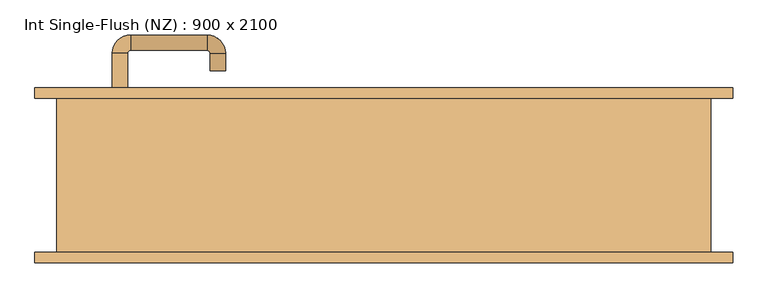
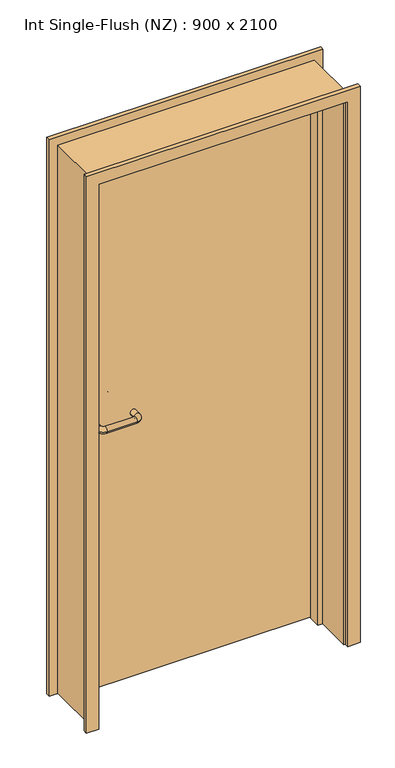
"""IFC4 building model written with IfcOpenShell, lengths in millimetres: door geometry, Int Single-Flush (NZ) : 900 x 2100."""

import ifcopenshell
import ifcopenshell.guid

model = None  # the IFC model being written
_history = None  # IfcOwnerHistory: only IFC2X3 demands one
_inside = {}  # id of a spatial element -> (the spatial element, [elements in it])
_under = {}  # id of a project, library or spatial element -> (it, [spatial elements below it])
_declared = {}  # id of a project -> (the project, [libraries it declares])
_typed = {}  # id of a type object -> (the type object, [elements of that type])
_made_of = {}  # id of a material, layer set ... -> (it, [elements and type objects made of it])


def new_model(schema):
    """Start an empty IFC model of exactly this schema.

    Asked for "IFC4X3", IfcOpenShell would pick the latest addendum, in which some entities
    have other attributes; the version numbers below select the first issue.
    IFC2X3 requires an IfcOwnerHistory on every rooted entity: one is made here for all.
    """
    global model, _history
    if schema == "IFC4X3":
        model = ifcopenshell.file(schema_version=(4, 3, 0, 0))
    else:
        model = ifcopenshell.file(schema=schema)
    _inside.clear()
    _under.clear()
    _declared.clear()
    _typed.clear()
    _made_of.clear()
    _history = None
    if model.schema == "IFC2X3":
        org = make("IfcOrganization", Name="unknown")
        user = make(
            "IfcPersonAndOrganization",
            ThePerson=make("IfcPerson", FamilyName="unknown"),
            TheOrganization=org,
        )
        app = make(
            "IfcApplication",
            ApplicationDeveloper=org,
            Version="unknown",
            ApplicationFullName="unknown",
            ApplicationIdentifier="unknown",
        )
        _history = make(
            "IfcOwnerHistory",
            OwningUser=user,
            OwningApplication=app,
            ChangeAction="ADDED",
            CreationDate=0,
        )
    return model


def make(cls, **values):
    """One entity of the class cls with the attributes given. An attribute that is None is left unset."""
    return model.create_entity(
        cls, **{name: value for name, value in values.items() if value is not None}
    )


def rooted(cls, **values):
    """An entity with a GlobalId (a new one), such as an element, a storey or a relation."""
    return make(cls, GlobalId=ifcopenshell.guid.new(), OwnerHistory=_history, **values)


def si_unit(unit_type, name, prefix=None):
    """IfcSIUnit, for example si_unit("LENGTHUNIT", "METRE", prefix="MILLI")."""
    return make("IfcSIUnit", UnitType=unit_type, Prefix=prefix, Name=name)


def assignment(units):
    """IfcUnitAssignment: the units of a project."""
    return None if units is None else make("IfcUnitAssignment", Units=units)


def point(xyz):
    """IfcCartesianPoint."""
    return None if xyz is None else make("IfcCartesianPoint", Coordinates=xyz)


def direction(xyz):
    """IfcDirection."""
    return None if xyz is None else make("IfcDirection", DirectionRatios=xyz)


def frame(location, z_axis=None, x_axis=None):
    """IfcAxis2Placement3D, a coordinate frame: its origin and axes. An axis left out is left unset."""
    return make(
        "IfcAxis2Placement3D",
        Location=point(location),
        Axis=direction(z_axis),
        RefDirection=direction(x_axis),
    )


def frame_2d(location, x_axis=None):
    """IfcAxis2Placement2D, a coordinate frame in the plane: its origin and x axis."""
    return make(
        "IfcAxis2Placement2D", Location=point(location), RefDirection=direction(x_axis)
    )


def origin():
    """The frame at (0, 0, 0) with its axes left unset."""
    return frame((0.0, 0.0, 0.0))


def place(relative_to, where):
    """IfcLocalPlacement: puts the frame where relative to a parent placement (None: the world)."""
    return make(
        "IfcLocalPlacement", PlacementRelTo=relative_to, RelativePlacement=where
    )


def context(
    kind, dimensions, precision=None, world=None, true_north=None, identifier=None
):
    """IfcGeometricRepresentationContext, for example the 3D "Model" context."""
    return make(
        "IfcGeometricRepresentationContext",
        ContextIdentifier=identifier,
        ContextType=kind,
        CoordinateSpaceDimension=dimensions,
        Precision=precision,
        WorldCoordinateSystem=world,
        TrueNorth=true_north,
    )


def project(units=None, contexts=None):
    """IfcProject with its units and contexts."""
    return rooted(
        "IfcProject",
        Name="project",
        RepresentationContexts=contexts,
        UnitsInContext=assignment(units),
    )


def spatial(cls, under=None, at=None, **own):
    """A site, building, storey or space (cls), placed at a placement, below another one or the project."""
    s = rooted(cls, ObjectPlacement=at, **own)
    if under is not None:
        _under.setdefault(under.id(), (under, []))[1].append(s)
    return s


def polyline(points):
    """IfcPolyline through the points."""
    return make("IfcPolyline", Points=[point(p) for p in points])


def circle_curve(where, radius):
    """IfcCircle in the frame where."""
    return make("IfcCircle", Position=where, Radius=radius)


def ellipse_curve(where, semi_axis1, semi_axis2):
    """IfcEllipse in the frame where."""
    return make(
        "IfcEllipse", Position=where, SemiAxis1=semi_axis1, SemiAxis2=semi_axis2
    )


def trimmed(basis, trim1, trim2, sense, master):
    """IfcTrimmedCurve: the piece of a basis curve between two trims."""
    return make(
        "IfcTrimmedCurve",
        BasisCurve=basis,
        Trim1=trim1,
        Trim2=trim2,
        SenseAgreement=sense,
        MasterRepresentation=master,
    )


def segment(curve, same_sense, transition):
    """IfcCompositeCurveSegment."""
    return make(
        "IfcCompositeCurveSegment",
        Transition=transition,
        SameSense=same_sense,
        ParentCurve=curve,
    )


def composite_curve(segments, self_intersect=None):
    """IfcCompositeCurve: segments joined end to end."""
    return make("IfcCompositeCurve", Segments=segments, SelfIntersect=self_intersect)


def outline(outer, holes=None, kind="AREA"):
    """IfcArbitraryClosedProfileDef: a profile drawn as a closed curve; with holes, ...WithVoids."""
    if holes is None:
        return make("IfcArbitraryClosedProfileDef", ProfileType=kind, OuterCurve=outer)
    return make(
        "IfcArbitraryProfileDefWithVoids",
        ProfileType=kind,
        OuterCurve=outer,
        InnerCurves=holes,
    )


def extrude(swept, where, along, depth):
    """IfcExtrudedAreaSolid: the profile swept, set in the frame where, extruded along a direction by depth."""
    return make(
        "IfcExtrudedAreaSolid",
        SweptArea=swept,
        Position=where,
        ExtrudedDirection=direction(along),
        Depth=depth,
    )


def faces_of(points, faces, orient=None, outer=None):
    """IfcFace entities. A face is a list of loops; a loop is a list of indices into points, from 0.

    orient and outer hold one flag for each loop. By default every Orientation is true, the
    first loop of a face is its IfcFaceOuterBound and the others are IfcFaceBound.
    """
    made = []
    for i, loops in enumerate(faces):
        bounds = []
        for j, loop in enumerate(loops):
            is_outer = j == 0 if outer is None else outer[i][j]
            bounds.append(
                make(
                    "IfcFaceOuterBound" if is_outer else "IfcFaceBound",
                    Bound=make("IfcPolyLoop", Polygon=[points[k] for k in loop]),
                    Orientation=True if orient is None else orient[i][j],
                )
            )
        made.append(make("IfcFace", Bounds=bounds))
    return made


def faceted_brep(points, faces, orient=None, outer=None, voids=None):
    """IfcFacetedBrep: a solid bounded by flat faces; with voids (closed shells), ...WithVoids."""
    shared = [point(p) for p in points]
    hull = make("IfcClosedShell", CfsFaces=faces_of(shared, faces, orient, outer))
    if voids is None:
        return make("IfcFacetedBrep", Outer=hull)
    return make(
        "IfcFacetedBrepWithVoids",
        Outer=hull,
        Voids=[
            make(cls, CfsFaces=faces_of(shared, fs, o, b)) for cls, fs, o, b in voids
        ],
    )


def shape(context_of_items, identifier, shape_type, items):
    """IfcShapeRepresentation: the items that make up one representation, for example the "Body"."""
    return make(
        "IfcShapeRepresentation",
        ContextOfItems=context_of_items,
        RepresentationIdentifier=identifier,
        RepresentationType=shape_type,
        Items=items,
    )


def source(mapping_origin, context_of_items, identifier, shape_type, items):
    """IfcRepresentationMap: a shape defined once, which mapped items show again and again."""
    return make(
        "IfcRepresentationMap",
        MappingOrigin=mapping_origin,
        MappedRepresentation=shape(context_of_items, identifier, shape_type, items),
    )


def transform(
    local_origin,
    x_axis=None,
    y_axis=None,
    z_axis=None,
    scale=None,
    scale2=None,
    scale3=None,
    uniform=True,
):
    """IfcCartesianTransformationOperator3D, or its non-uniform kind. x_axis, y_axis, z_axis: its Axis1, 2, 3."""
    if uniform:
        return make(
            "IfcCartesianTransformationOperator3D",
            Axis1=direction(x_axis),
            Axis2=direction(y_axis),
            LocalOrigin=point(local_origin),
            Scale=scale,
            Axis3=direction(z_axis),
        )
    return make(
        "IfcCartesianTransformationOperator3DnonUniform",
        Axis1=direction(x_axis),
        Axis2=direction(y_axis),
        LocalOrigin=point(local_origin),
        Scale=scale,
        Axis3=direction(z_axis),
        Scale2=scale2,
        Scale3=scale3,
    )


def mapped(mapping_source, mapping_target):
    """IfcMappedItem: shows the shape of a source again, moved by a transform."""
    return make(
        "IfcMappedItem", MappingSource=mapping_source, MappingTarget=mapping_target
    )


def made_of(thing, what):
    """Note that an element or type object is made of a material, layer set ...; save() writes the relation."""
    if what is not None:
        _made_of.setdefault(what.id(), (what, []))[1].append(thing)
    return thing


def element(
    cls,
    number,
    at=None,
    inside=None,
    cuts=None,
    type_object=None,
    material=None,
    context=None,
    identifier="Body",
    shape_type=None,
    held_by="IfcProductDefinitionShape",
    body=None,
    shapes=None,
    **own,
):
    """One element of the class cls, such as IfcWall. Its Tag is "e" and its number.

    at: its placement. inside: the storey or other place that contains it. cuts: it is an
    opening in that element (IfcRelVoidsElement). A single representation is given by context,
    identifier, shape_type and body (its items); several are given by shapes. held_by: the class
    of the entity that holds the representations. save() writes the other relations.
    """
    e = rooted(cls, Tag="e%d" % number, ObjectPlacement=at, **own)
    if body is not None:
        shapes = [shape(context, identifier, shape_type, body)]
    if shapes is not None:
        e.Representation = make(held_by, Representations=shapes)
    if inside is not None:
        _inside.setdefault(inside.id(), (inside, []))[1].append(e)
    if cuts is not None:
        rooted(
            "IfcRelVoidsElement", RelatingBuildingElement=cuts, RelatedOpeningElement=e
        )
    if type_object is not None:
        _typed.setdefault(type_object.id(), (type_object, []))[1].append(e)
    return made_of(e, material)


def aggregate(whole, parts):
    """IfcRelAggregates: a whole, such as a stair, and the parts it consists of."""
    return rooted("IfcRelAggregates", RelatingObject=whole, RelatedObjects=parts)


def save(model, path):
    """Write the relations noted so far, then the file.

    IfcRelAggregates (storeys below a building ...), IfcRelContainedInSpatialStructure (elements
    in a storey), IfcRelDefinesByType, IfcRelAssociatesMaterial and IfcRelDeclares: one each for
    every whole, place, type object, material and project.
    """
    for whole, parts in _under.values():
        aggregate(whole, parts)
    for where, things in _inside.values():
        rooted(
            "IfcRelContainedInSpatialStructure",
            RelatedElements=things,
            RelatingStructure=where,
        )
    for kind, things in _typed.values():
        rooted("IfcRelDefinesByType", RelatedObjects=things, RelatingType=kind)
    for what, things in _made_of.values():
        rooted("IfcRelAssociatesMaterial", RelatedObjects=things, RelatingMaterial=what)
    for by, libraries in _declared.values():
        rooted("IfcRelDeclares", RelatingContext=by, RelatedDefinitions=libraries)
    model.write(path)


def plane_surface(at):
    """IfcPlane: the flat surface through the origin of the frame at, square to its z axis."""
    return make("IfcPlane", Position=at)


def cylinder_surface(at, radius):
    """IfcCylindricalSurface: all points at the distance radius from the z axis of the frame at."""
    return make("IfcCylindricalSurface", Position=at, Radius=radius)


def revolved_surface(curve, axis_point, axis_direction):
    """IfcSurfaceOfRevolution: the curve turned about the line through axis_point along axis_direction."""
    return make(
        "IfcSurfaceOfRevolution",
        SweptCurve=make("IfcArbitraryOpenProfileDef", ProfileType="CURVE", Curve=curve),
        AxisPosition=make("IfcAxis1Placement", Location=point(axis_point), Axis=direction(axis_direction)),
    )


def advanced_brep(points, edges, surfaces, faces):
    """IfcAdvancedBrep: a solid bounded by faces that lie on surfaces and meet in shared edges.

    An edge is (start, end): straight between two places in points (the first is 0);
    or (start, end, curve); or (start, end, curve, False) where it runs against its curve.
    A face is (place in surfaces, loops), or (place, loops, False) where it looks against
    its surface's normal. A loop lists edges by number (the first is 1), with a minus sign
    where the edge is run from its end to its start. The first loop is the outer one.
    """
    corners = [point(p) for p in points]
    vertices = [make("IfcVertexPoint", VertexGeometry=c) for c in corners]
    made = []
    for start, end, *more in edges:
        made.append(
            make(
                "IfcEdgeCurve",
                EdgeStart=vertices[start],
                EdgeEnd=vertices[end],
                EdgeGeometry=more[0] if more else make("IfcPolyline", Points=[corners[start], corners[end]]),
                SameSense=more[1] if len(more) > 1 else True,
            )
        )
    hull = []
    for where, loops, *sense in faces:
        bounds = []
        for j, loop in enumerate(loops):
            ring = [make("IfcOrientedEdge", EdgeElement=made[abs(k) - 1], Orientation=k > 0) for k in loop]
            bounds.append(
                make(
                    "IfcFaceOuterBound" if j == 0 else "IfcFaceBound",
                    Bound=make("IfcEdgeLoop", EdgeList=ring),
                    Orientation=True,
                )
            )
        hull.append(make("IfcAdvancedFace", Bounds=bounds, FaceSurface=surfaces[where], SameSense=sense[0] if sense else True))
    return make("IfcAdvancedBrep", Outer=make("IfcClosedShell", CfsFaces=hull))


def int_single_flush_nz_900_x_2100_021ef152(model_context):
    return source(origin(), model_context, "Body", "SolidModel", [
        extrude(outline(polyline([(2119.0, -544.0), (0.0, -544.0), (0.0, -525.0), (2100.0, -525.0), (2100.0, 375.0), (0.0, 375.0), (0.0, 394.0), (2119.0, 394.0), (2119.0, -544.0)])), frame((0.0, -110.0, 0.0), z_axis=(0.0, 1.0, 0.0), x_axis=(0.0, 0.0, 1.0)), (0.0, 0.0, 1.0), 220.0),
        faceted_brep([(-525.0, 69.0, 0.0), (-506.6719264, 69.0, 0.0), (-506.6719264, 24.0, 0.0), (-525.0, 24.0, 0.0), (-525.0, 69.0, 2100.0), (-506.6719264, 69.0, 2081.6719264), (-506.6719264, 24.0, 2081.6719264), (-525.0, 24.0, 2100.0), (375.0, 69.0, 0.0), (375.0, 24.0, 0.0), (356.6719264, 24.0, 0.0), (356.6719264, 69.0, 0.0), (375.0, 69.0, 2100.0), (375.0, 24.0, 2100.0), (356.6719264, 24.0, 2081.6719264), (356.6719264, 69.0, 2081.6719264)], [[[0, 1, 2, 3]], [[1, 0, 4, 5]], [[2, 1, 5, 6]], [[3, 2, 6, 7]], [[0, 3, 7, 4]], [[8, 9, 10, 11]], [[12, 13, 9, 8]], [[13, 14, 10, 9]], [[14, 15, 11, 10]], [[15, 12, 8, 11]], [[5, 4, 12, 15]], [[6, 5, 15, 14]], [[7, 6, 14, 13]], [[4, 7, 13, 12]]]),
        extrude(outline(polyline([(2150.0, 425.0), (2150.0, -575.0), (0.0, -575.0), (0.0, -530.0), (2105.0, -530.0), (2105.0, 380.0), (0.0, 380.0), (0.0, 425.0), (2150.0, 425.0)])), frame((0.0, 110.0, 0.0), z_axis=(0.0, 1.0, 0.0), x_axis=(0.0, 0.0, 1.0)), (0.0, 0.0, 1.0), 15.0),
        extrude(outline(polyline([(2150.0, -575.0), (0.0, -575.0), (0.0, -530.0), (2105.0, -530.0), (2105.0, 380.0), (0.0, 380.0), (0.0, 425.0), (2150.0, 425.0), (2150.0, -575.0)])), frame((0.0, -125.0, 0.0), z_axis=(0.0, 1.0, 0.0), x_axis=(0.0, 0.0, 1.0)), (0.0, 0.0, 1.0), 15.0),
        advanced_brep(
        [(-464.0, 62.0160352, 1053.0), (-442.0, 62.0160352, 1053.0), (-464.0, 7.0160352, 1053.0), (-442.0, 7.0160352, 1053.0), (-438.0, 3.0160352, 1053.0), (-438.0, -18.9839648, 1053.0), (-328.0, -18.9839648, 1053.0), (-328.0, 3.0160352, 1053.0), (-324.0, 7.0160352, 1053.0), (-302.0, 7.0160352, 1053.0), (-302.0, 32.0160352, 1053.0), (-324.0, 32.0160352, 1053.0)],
        [
            (0, 1, circle_curve(frame((-453.0, 62.0160352, 1053.0), z_axis=(0.0, 1.0, 0.0), x_axis=(1.0, 0.0, 0.0)), 11.0)),
            (1, 0, circle_curve(frame((-453.0, 62.0160352, 1053.0), z_axis=(0.0, 1.0, 0.0), x_axis=(1.0, 0.0, 0.0)), 11.0)),
            (0, 2),
            (2, 3, circle_curve(frame((-453.0, 7.0160352, 1053.0), z_axis=(0.0, 1.0, 0.0), x_axis=(1.0, 0.0, 0.0)), 11.0)),
            (3, 1),
            (3, 2, circle_curve(frame((-453.0, 7.0160352, 1053.0), z_axis=(0.0, 1.0, 0.0), x_axis=(1.0, 0.0, 0.0)), 11.0)),
            (4, 3, circle_curve(frame((-438.0, 7.0160352, 1053.0), z_axis=(0.0, 0.0, -1.0), x_axis=(-1.0, 0.0, 0.0)), 4.0)),
            (2, 5, circle_curve(frame((-438.0, 7.0160352, 1053.0), z_axis=(0.0, 0.0, 1.0), x_axis=(-1.0, 0.0, 0.0)), 26.0)),
            (5, 4, circle_curve(frame((-438.0, -7.9839648, 1053.0), z_axis=(-1.0, 0.0, 0.0), x_axis=(0.0, 1.0, 0.0)), 11.0)),
            (4, 5, circle_curve(frame((-438.0, -7.9839648, 1053.0), z_axis=(-1.0, 0.0, 0.0), x_axis=(0.0, 1.0, 0.0)), 11.0)),
            (5, 6),
            (6, 7, circle_curve(frame((-328.0, -7.9839648, 1053.0), z_axis=(-1.0, 0.0, 0.0), x_axis=(0.0, 1.0, 0.0)), 11.0)),
            (7, 4),
            (7, 6, circle_curve(frame((-328.0, -7.9839648, 1053.0), z_axis=(-1.0, 0.0, 0.0), x_axis=(0.0, 1.0, 0.0)), 11.0)),
            (8, 7, circle_curve(frame((-328.0, 7.0160352, 1053.0), z_axis=(0.0, 0.0, -1.0), x_axis=(0.0, -1.0, 0.0)), 4.0)),
            (6, 9, circle_curve(frame((-328.0, 7.0160352, 1053.0), z_axis=(0.0, 0.0, 1.0), x_axis=(0.0, -1.0, 0.0)), 26.0)),
            (9, 8, circle_curve(frame((-313.0, 7.0160352, 1053.0), z_axis=(0.0, -1.0, 0.0), x_axis=(-1.0, 0.0, 0.0)), 11.0)),
            (8, 9, circle_curve(frame((-313.0, 7.0160352, 1053.0), z_axis=(0.0, -1.0, 0.0), x_axis=(-1.0, 0.0, 0.0)), 11.0)),
            (10, 11, circle_curve(frame((-313.0, 32.0160352, 1053.0), z_axis=(0.0, 1.0, 0.0), x_axis=(-1.0, 0.0, 0.0)), 11.0)),
            (11, 10, circle_curve(frame((-313.0, 32.0160352, 1053.0), z_axis=(0.0, 1.0, 0.0), x_axis=(-1.0, 0.0, 0.0)), 11.0)),
            (9, 10),
            (11, 8),
        ],
        [
            plane_surface(frame((-464.0, 62.0160352, 1053.0), z_axis=(0.0, 1.0, 0.0), x_axis=(0.0, 0.0, -1.0))),
            cylinder_surface(frame((-453.0, 62.0160352, 1053.0), z_axis=(0.0, 1.0, 0.0), x_axis=(1.0, 0.0, 0.0)), 11.0),
            revolved_surface(trimmed(ellipse_curve(frame((-453.0, 7.0160352, 1053.0), z_axis=(0.0, 1.0, 0.0), x_axis=(1.0, 0.0, 0.0)), 11.0, 11.0), [point((-464.0, 7.0160352, 1053.0))], [point((-442.0, 7.0160352, 1053.0))], True, "CARTESIAN"), (-438.0, 7.0160352, 1053.0), (0.0, 0.0, 1.0)),
            revolved_surface(trimmed(ellipse_curve(frame((-453.0, 7.0160352, 1053.0), z_axis=(0.0, 1.0, 0.0), x_axis=(1.0, 0.0, 0.0)), 11.0, 11.0), [point((-442.0, 7.0160352, 1053.0))], [point((-464.0, 7.0160352, 1053.0))], True, "CARTESIAN"), (-438.0, 7.0160352, 1053.0), (0.0, 0.0, 1.0)),
            cylinder_surface(frame((-438.0, -7.9839648, 1053.0), z_axis=(-1.0, 0.0, 0.0), x_axis=(0.0, 1.0, 0.0)), 11.0),
            revolved_surface(trimmed(ellipse_curve(frame((-328.0, -7.9839648, 1053.0), z_axis=(-1.0, 0.0, 0.0), x_axis=(0.0, 1.0, 0.0)), 11.0, 11.0), [point((-328.0, -18.9839648, 1053.0))], [point((-328.0, 3.0160352, 1053.0))], True, "CARTESIAN"), (-328.0, 7.0160352, 1053.0), (0.0, 0.0, 1.0)),
            revolved_surface(trimmed(ellipse_curve(frame((-328.0, -7.9839648, 1053.0), z_axis=(-1.0, 0.0, 0.0), x_axis=(0.0, 1.0, 0.0)), 11.0, 11.0), [point((-328.0, 3.0160352, 1053.0))], [point((-328.0, -18.9839648, 1053.0))], True, "CARTESIAN"), (-328.0, 7.0160352, 1053.0), (0.0, 0.0, 1.0)),
            plane_surface(frame((-324.0, 32.0160352, 1053.0), z_axis=(0.0, 1.0, 0.0), x_axis=(0.0, 0.0, 1.0))),
            cylinder_surface(frame((-313.0, 7.0160352, 1053.0), z_axis=(0.0, -1.0, 0.0), x_axis=(-1.0, 0.0, 0.0)), 11.0),
        ],
        [
            (0, [[1, 2]]),
            (1, [[-1, 3, 4, 5]]),
            (1, [[-2, -5, 6, -3]]),
            (2, [[7, -4, 8, 9]]),
            (3, [[-8, -6, -7, 10]]),
            (4, [[-9, 11, 12, 13]]),
            (4, [[-10, -13, 14, -11]]),
            (5, [[15, -12, 16, 17]]),
            (6, [[-16, -14, -15, 18]]),
            (7, [[19, 20]]),
            (8, [[-17, 21, -20, 22]]),
            (8, [[-18, -22, -19, -21]]),
        ],
    ),
        extrude(outline(composite_curve([segment(trimmed(circle_curve(frame_2d((1053.0, -453.0)), 25.0), [point((1053.0, -478.0))], [point((1053.0, -428.0))], False, "CARTESIAN"), True, "CONTINUOUS"), segment(trimmed(circle_curve(frame_2d((1053.0, -453.0)), 25.0), [point((1053.0, -428.0))], [point((1053.0, -478.0))], False, "CARTESIAN"), True, "CONTINUOUS")], self_intersect=False)), frame((0.0, 62.0160352, 0.0), z_axis=(0.0, 1.0, 0.0), x_axis=(0.0, 0.0, 1.0)), (0.0, 0.0, 1.0), 9.9839648),
        advanced_brep(
        [(-442.0, 120.0, 1053.0), (-464.0, 120.0, 1053.0), (-442.0, 175.0, 1053.0), (-464.0, 175.0, 1053.0), (-438.0, 201.0, 1053.0), (-438.0, 179.0, 1053.0), (-328.0, 179.0, 1053.0), (-328.0, 201.0, 1053.0), (-302.0, 175.0, 1053.0), (-324.0, 175.0, 1053.0), (-324.0, 150.0, 1053.0), (-302.0, 150.0, 1053.0)],
        [
            (0, 1, circle_curve(frame((-453.0, 120.0, 1053.0), z_axis=(0.0, -1.0, 0.0), x_axis=(-1.0, 0.0, 0.0)), 11.0)),
            (1, 0, circle_curve(frame((-453.0, 120.0, 1053.0), z_axis=(0.0, -1.0, 0.0), x_axis=(-1.0, 0.0, 0.0)), 11.0)),
            (0, 2),
            (2, 3, circle_curve(frame((-453.0, 175.0, 1053.0), z_axis=(0.0, -1.0, 0.0), x_axis=(-1.0, 0.0, 0.0)), 11.0)),
            (3, 1),
            (3, 2, circle_curve(frame((-453.0, 175.0, 1053.0), z_axis=(0.0, -1.0, 0.0), x_axis=(-1.0, 0.0, 0.0)), 11.0)),
            (4, 3, circle_curve(frame((-438.0, 175.0, 1053.0), z_axis=(0.0, 0.0, 1.0), x_axis=(-1.0, 0.0, 0.0)), 26.0)),
            (2, 5, circle_curve(frame((-438.0, 175.0, 1053.0), z_axis=(0.0, 0.0, -1.0), x_axis=(-1.0, 0.0, 0.0)), 4.0)),
            (5, 4, circle_curve(frame((-438.0, 190.0, 1053.0), z_axis=(-1.0, 0.0, 0.0), x_axis=(0.0, 1.0, 0.0)), 11.0)),
            (4, 5, circle_curve(frame((-438.0, 190.0, 1053.0), z_axis=(-1.0, 0.0, 0.0), x_axis=(0.0, 1.0, 0.0)), 11.0)),
            (5, 6),
            (6, 7, circle_curve(frame((-328.0, 190.0, 1053.0), z_axis=(-1.0, 0.0, 0.0), x_axis=(0.0, 1.0, 0.0)), 11.0)),
            (7, 4),
            (7, 6, circle_curve(frame((-328.0, 190.0, 1053.0), z_axis=(-1.0, 0.0, 0.0), x_axis=(0.0, 1.0, 0.0)), 11.0)),
            (8, 7, circle_curve(frame((-328.0, 175.0, 1053.0), z_axis=(0.0, 0.0, 1.0), x_axis=(0.0, 1.0, 0.0)), 26.0)),
            (6, 9, circle_curve(frame((-328.0, 175.0, 1053.0), z_axis=(0.0, 0.0, -1.0), x_axis=(0.0, 1.0, 0.0)), 4.0)),
            (9, 8, circle_curve(frame((-313.0, 175.0, 1053.0), z_axis=(0.0, 1.0, 0.0), x_axis=(1.0, 0.0, 0.0)), 11.0)),
            (8, 9, circle_curve(frame((-313.0, 175.0, 1053.0), z_axis=(0.0, 1.0, 0.0), x_axis=(1.0, 0.0, 0.0)), 11.0)),
            (10, 11, circle_curve(frame((-313.0, 150.0, 1053.0), z_axis=(0.0, -1.0, 0.0), x_axis=(1.0, 0.0, 0.0)), 11.0)),
            (11, 10, circle_curve(frame((-313.0, 150.0, 1053.0), z_axis=(0.0, -1.0, 0.0), x_axis=(1.0, 0.0, 0.0)), 11.0)),
            (9, 10),
            (11, 8),
        ],
        [
            plane_surface(frame((-464.0, 120.0, 1053.0), z_axis=(0.0, -1.0, 0.0), x_axis=(0.0, 0.0, 1.0))),
            cylinder_surface(frame((-453.0, 120.0, 1053.0), z_axis=(0.0, -1.0, 0.0), x_axis=(-1.0, 0.0, 0.0)), 11.0),
            revolved_surface(trimmed(ellipse_curve(frame((-453.0, 175.0, 1053.0), z_axis=(0.0, -1.0, 0.0), x_axis=(-1.0, 0.0, 0.0)), 11.0, 11.0), [point((-442.0, 175.0, 1053.0))], [point((-464.0, 175.0, 1053.0))], True, "CARTESIAN"), (-438.0, 175.0, 1053.0), (0.0, 0.0, -1.0)),
            revolved_surface(trimmed(ellipse_curve(frame((-453.0, 175.0, 1053.0), z_axis=(0.0, -1.0, 0.0), x_axis=(-1.0, 0.0, 0.0)), 11.0, 11.0), [point((-464.0, 175.0, 1053.0))], [point((-442.0, 175.0, 1053.0))], True, "CARTESIAN"), (-438.0, 175.0, 1053.0), (0.0, 0.0, -1.0)),
            cylinder_surface(frame((-438.0, 190.0, 1053.0), z_axis=(-1.0, 0.0, 0.0), x_axis=(0.0, 1.0, 0.0)), 11.0),
            revolved_surface(trimmed(ellipse_curve(frame((-328.0, 190.0, 1053.0), z_axis=(-1.0, 0.0, 0.0), x_axis=(0.0, 1.0, 0.0)), 11.0, 11.0), [point((-328.0, 179.0, 1053.0))], [point((-328.0, 201.0, 1053.0))], True, "CARTESIAN"), (-328.0, 175.0, 1053.0), (0.0, 0.0, -1.0)),
            revolved_surface(trimmed(ellipse_curve(frame((-328.0, 190.0, 1053.0), z_axis=(-1.0, 0.0, 0.0), x_axis=(0.0, 1.0, 0.0)), 11.0, 11.0), [point((-328.0, 201.0, 1053.0))], [point((-328.0, 179.0, 1053.0))], True, "CARTESIAN"), (-328.0, 175.0, 1053.0), (0.0, 0.0, -1.0)),
            plane_surface(frame((-324.0, 150.0, 1053.0), z_axis=(0.0, -1.0, 0.0), x_axis=(0.0, 0.0, -1.0))),
            cylinder_surface(frame((-313.0, 175.0, 1053.0), z_axis=(0.0, 1.0, 0.0), x_axis=(1.0, 0.0, 0.0)), 11.0),
        ],
        [
            (0, [[1, 2]]),
            (1, [[-1, 3, 4, 5]]),
            (1, [[-2, -5, 6, -3]]),
            (2, [[7, -4, 8, 9]]),
            (3, [[-8, -6, -7, 10]]),
            (4, [[-9, 11, 12, 13]]),
            (4, [[-10, -13, 14, -11]]),
            (5, [[15, -12, 16, 17]]),
            (6, [[-16, -14, -15, 18]]),
            (7, [[19, 20]]),
            (8, [[-17, 21, -20, 22]]),
            (8, [[-18, -22, -19, -21]]),
        ],
    ),
        extrude(outline(composite_curve([segment(trimmed(circle_curve(frame_2d((1053.0, -453.0)), 25.0), [point((1053.0, -428.0))], [point((1053.0, -478.0))], False, "CARTESIAN"), True, "CONTINUOUS"), segment(trimmed(circle_curve(frame_2d((1053.0, -453.0)), 25.0), [point((1053.0, -478.0))], [point((1053.0, -428.0))], False, "CARTESIAN"), True, "CONTINUOUS")], self_intersect=False)), frame((0.0, 110.0, 0.0), z_axis=(0.0, 1.0, 0.0), x_axis=(0.0, 0.0, 1.0)), (0.0, 0.0, 1.0), 10.0),
        extrude(outline(polyline([(372.0, 72.0), (-528.0, 72.0), (-528.0, 110.0), (372.0, 110.0), (372.0, 72.0)])), frame((0.0, 0.0, 3.0), z_axis=(0.0, 0.0, 1.0), x_axis=(1.0, 0.0, 0.0)), (0.0, 0.0, 1.0), 2094.0),
    ])


if __name__ == "__main__":
    model = new_model("IFC4")
    model_context = context("Model", 3, world=origin())
    ifc_project = project(units=[si_unit("LENGTHUNIT", "METRE", prefix="MILLI")], contexts=[model_context])
    site = spatial("IfcSite", under=ifc_project)
    building = spatial("IfcBuilding", under=site)
    placement = place(None, origin())
    int_single_flush_nz_900_x_2100_shape = int_single_flush_nz_900_x_2100_021ef152(model_context)
    element("IfcDoor", 1, ObjectType="Int Single-Flush (NZ) : 900 x 2100", at=placement, inside=building, context=model_context, shape_type="MappedRepresentation", body=[
        mapped(int_single_flush_nz_900_x_2100_shape, transform((0.0, 0.0, 0.0), x_axis=(1.0, 0.0, 0.0), y_axis=(0.0, 1.0, 0.0), z_axis=(0.0, 0.0, 1.0))),
    ])
    save(model, "model.ifc")
